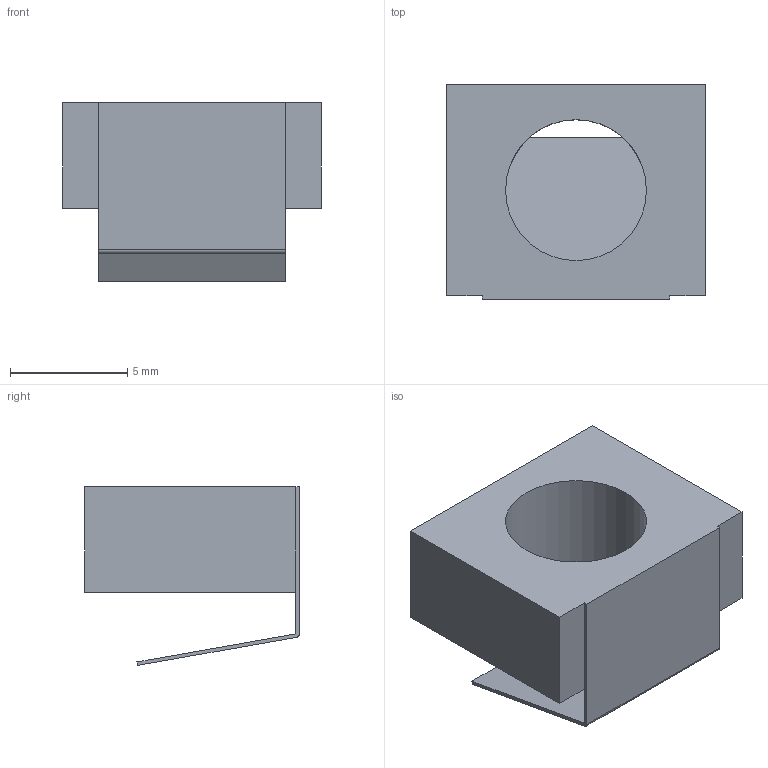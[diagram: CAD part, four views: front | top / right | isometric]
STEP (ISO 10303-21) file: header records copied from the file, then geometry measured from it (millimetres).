
FILE_DESCRIPTION(/* description */ ('Unknown'),/* implementation_level */ '2;1');
FILE_NAME(/* name */ 'BS06',/* time_stamp */ '2026-09-17T14:21:19+08:00',/* author */ ('Unknown'),/* organization */ ('Unknown'),/* preprocessor_version */ 'ST-DEVELOPER v16.7',/* originating_system */ 'DEX',/* authorisation */ $);
FILE_SCHEMA (('AUTOMOTIVE_DESIGN {1 0 10303 214 3 1 1}'));
Length unit declared in the file: millimetre
Products named in the file (1): BS06
Bounding box: 11 x 9.15 x 7.62 mm (x, y, z)
Volume: 334.2 mm3; surface area: 552.7 mm2
Topology: 1 solids, 1 shells, 16 faces, 41 edges, 27 vertices
Faces by surface type: plane 14, cylinder 2
Full cylindrical faces by diameter (mm): 6 x1
Entity records: 607 total; most frequent: CARTESIAN_POINT 82, ORIENTED_EDGE 78, DIRECTION 77, EDGE_CURVE 39, LINE 35, VECTOR 35, VERTEX_POINT 26, AXIS2_PLACEMENT_3D 21
